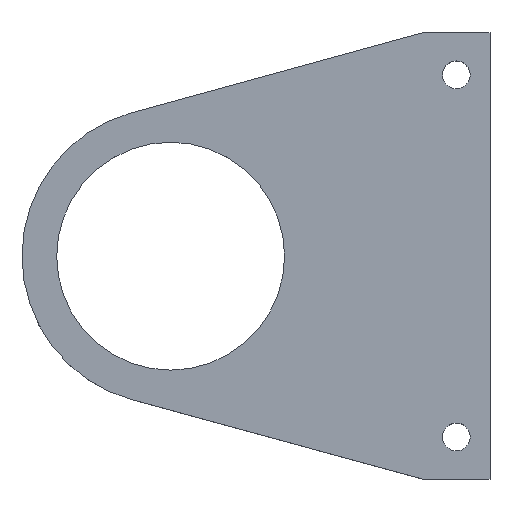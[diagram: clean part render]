
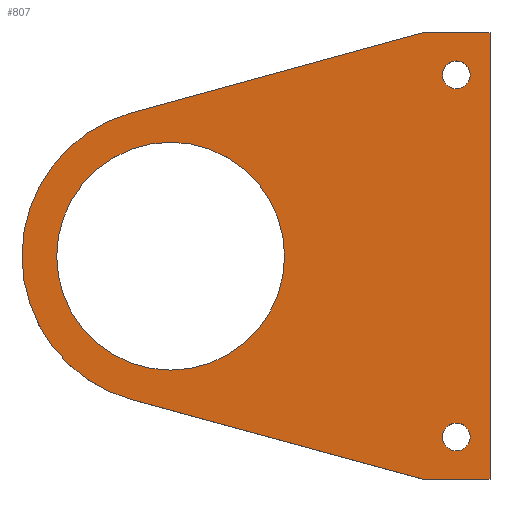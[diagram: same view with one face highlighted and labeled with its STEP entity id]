
A CAD part, top view. The second image highlights one B-rep face of the part: STEP entity #807.
In plain terms, the highlighted planar face has unit normal (0, 0, 1).
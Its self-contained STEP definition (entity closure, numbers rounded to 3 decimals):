
#12 = ORIENTED_EDGE ( 'NONE', *, *, #643, .F. ) ;
#21 = DIRECTION ( 'NONE',  ( 0., 0., 1. ) ) ;
#27 = DIRECTION ( 'NONE',  ( -0.964, -0.265, 0. ) ) ;
#43 = EDGE_LOOP ( 'NONE', ( #418, #346 ) ) ;
#64 = VERTEX_POINT ( 'NONE', #417 ) ;
#101 = ORIENTED_EDGE ( 'NONE', *, *, #570, .T. ) ;
#106 = ORIENTED_EDGE ( 'NONE', *, *, #392, .F. ) ;
#111 = AXIS2_PLACEMENT_3D ( 'NONE', #274, #549, #132 ) ;
#112 = VERTEX_POINT ( 'NONE', #705 ) ;
#132 = DIRECTION ( 'NONE',  ( 1., 0., 0. ) ) ;
#138 = ORIENTED_EDGE ( 'NONE', *, *, #913, .T. ) ;
#141 = AXIS2_PLACEMENT_3D ( 'NONE', #718, #742, #367 ) ;
#148 = CARTESIAN_POINT ( 'NONE',  ( -31.213, -1.384, 10.5 ) ) ;
#149 = EDGE_CURVE ( 'NONE', #917, #297, #338, .T. ) ;
#153 = CARTESIAN_POINT ( 'NONE',  ( 0., -5.634, 10.5 ) ) ;
#159 = EDGE_CURVE ( 'NONE', #329, #828, #926, .T. ) ;
#163 = DIRECTION ( 'NONE',  ( 0., 0., 1. ) ) ;
#169 = CARTESIAN_POINT ( 'NONE',  ( -60.049, 16.866, 10.5 ) ) ;
#173 = VERTEX_POINT ( 'NONE', #827 ) ;
#202 = AXIS2_PLACEMENT_3D ( 'NONE', #148, #376, #232 ) ;
#207 = FACE_BOUND ( 'NONE', #373, .T. ) ;
#223 = VERTEX_POINT ( 'NONE', #821 ) ;
#228 = CIRCLE ( 'NONE', #202, 1.4 ) ;
#232 = DIRECTION ( 'NONE',  ( 1., 0., 0. ) ) ;
#233 = ORIENTED_EDGE ( 'NONE', *, *, #499, .F. ) ;
#274 = CARTESIAN_POINT ( 'NONE',  ( -60.049, 16.866, 10.5 ) ) ;
#280 = CIRCLE ( 'NONE', #923, 1.4 ) ;
#295 = DIRECTION ( 'NONE',  ( 1., 0., 0. ) ) ;
#297 = VERTEX_POINT ( 'NONE', #600 ) ;
#301 = DIRECTION ( 'NONE',  ( 1., 0., 0. ) ) ;
#303 = DIRECTION ( 'NONE',  ( 1., 0., 0. ) ) ;
#306 = ORIENTED_EDGE ( 'NONE', *, *, #781, .T. ) ;
#310 = VERTEX_POINT ( 'NONE', #708 ) ;
#322 = CIRCLE ( 'NONE', #595, 15. ) ;
#329 = VERTEX_POINT ( 'NONE', #626 ) ;
#338 = CIRCLE ( 'NONE', #865, 11.5 ) ;
#346 = ORIENTED_EDGE ( 'NONE', *, *, #472, .T. ) ;
#350 = ORIENTED_EDGE ( 'NONE', *, *, #872, .T. ) ;
#351 = FACE_BOUND ( 'NONE', #750, .T. ) ;
#354 = CARTESIAN_POINT ( 'NONE',  ( -75.049, 16.866, 10.5 ) ) ;
#364 = DIRECTION ( 'NONE',  ( 0., -1., 0. ) ) ;
#367 = DIRECTION ( 'NONE',  ( 1., 0., 0. ) ) ;
#369 = CARTESIAN_POINT ( 'NONE',  ( -64.003, 2.397, 10.5 ) ) ;
#373 = EDGE_LOOP ( 'NONE', ( #106, #829 ) ) ;
#376 = DIRECTION ( 'NONE',  ( 0., 0., -1. ) ) ;
#386 = LINE ( 'NONE', #670, #630 ) ;
#392 = EDGE_CURVE ( 'NONE', #297, #917, #906, .T. ) ;
#415 = DIRECTION ( 'NONE',  ( 0., 0., 1. ) ) ;
#417 = CARTESIAN_POINT ( 'NONE',  ( -29.813, -1.384, 10.5 ) ) ;
#418 = ORIENTED_EDGE ( 'NONE', *, *, #509, .T. ) ;
#423 = VERTEX_POINT ( 'NONE', #585 ) ;
#428 = DIRECTION ( 'NONE',  ( 0., 0., 1. ) ) ;
#438 = VECTOR ( 'NONE', #528, 1000. ) ;
#472 = EDGE_CURVE ( 'NONE', #64, #310, #228, .T. ) ;
#484 = DIRECTION ( 'NONE',  ( 1., 0., 0. ) ) ;
#486 = CARTESIAN_POINT ( 'NONE',  ( -60.049, 16.866, 10.5 ) ) ;
#493 = AXIS2_PLACEMENT_3D ( 'NONE', #662, #522, #301 ) ;
#499 = EDGE_CURVE ( 'NONE', #173, #423, #280, .T. ) ;
#502 = ORIENTED_EDGE ( 'NONE', *, *, #824, .F. ) ;
#508 = CARTESIAN_POINT ( 'NONE',  ( -71.549, 16.866, 10.5 ) ) ;
#509 = EDGE_CURVE ( 'NONE', #310, #64, #629, .T. ) ;
#514 = CARTESIAN_POINT ( 'NONE',  ( -34.613, 39.416, 10.5 ) ) ;
#522 = DIRECTION ( 'NONE',  ( 0., 0., 1. ) ) ;
#528 = DIRECTION ( 'NONE',  ( -0.965, 0.264, 0. ) ) ;
#533 = LINE ( 'NONE', #905, #438 ) ;
#537 = CIRCLE ( 'NONE', #660, 15. ) ;
#549 = DIRECTION ( 'NONE',  ( 0., 0., 1. ) ) ;
#555 = CARTESIAN_POINT ( 'NONE',  ( 0., 0., 10.5 ) ) ;
#570 = EDGE_CURVE ( 'NONE', #921, #112, #386, .T. ) ;
#574 = CARTESIAN_POINT ( 'NONE',  ( 0., 39.416, 10.5 ) ) ;
#585 = CARTESIAN_POINT ( 'NONE',  ( -29.813, 35.166, 10.5 ) ) ;
#595 = AXIS2_PLACEMENT_3D ( 'NONE', #169, #21, #801 ) ;
#600 = CARTESIAN_POINT ( 'NONE',  ( -48.549, 16.866, 10.5 ) ) ;
#625 = FACE_BOUND ( 'NONE', #43, .T. ) ;
#626 = CARTESIAN_POINT ( 'NONE',  ( -27.813, 39.416, 10.5 ) ) ;
#627 = DIRECTION ( 'NONE',  ( 1., 0., 0. ) ) ;
#629 = CIRCLE ( 'NONE', #141, 1.4 ) ;
#630 = VECTOR ( 'NONE', #27, 1000. ) ;
#643 = EDGE_CURVE ( 'NONE', #223, #794, #533, .T. ) ;
#646 = CARTESIAN_POINT ( 'NONE',  ( -60.049, 16.866, 10.5 ) ) ;
#660 = AXIS2_PLACEMENT_3D ( 'NONE', #646, #415, #859 ) ;
#662 = CARTESIAN_POINT ( 'NONE',  ( -31.213, 35.166, 10.5 ) ) ;
#670 = CARTESIAN_POINT ( 'NONE',  ( -12.508, 45.494, 10.5 ) ) ;
#679 = VECTOR ( 'NONE', #797, 1000. ) ;
#703 = FACE_OUTER_BOUND ( 'NONE', #875, .T. ) ;
#705 = CARTESIAN_POINT ( 'NONE',  ( -64.026, 31.33, 10.5 ) ) ;
#707 = LINE ( 'NONE', #153, #814 ) ;
#708 = CARTESIAN_POINT ( 'NONE',  ( -32.613, -1.384, 10.5 ) ) ;
#718 = CARTESIAN_POINT ( 'NONE',  ( -31.213, -1.384, 10.5 ) ) ;
#719 = VERTEX_POINT ( 'NONE', #354 ) ;
#727 = CARTESIAN_POINT ( 'NONE',  ( -27.813, -5.634, 10.5 ) ) ;
#742 = DIRECTION ( 'NONE',  ( 0., 0., -1. ) ) ;
#750 = EDGE_LOOP ( 'NONE', ( #233, #502 ) ) ;
#781 = EDGE_CURVE ( 'NONE', #112, #719, #537, .T. ) ;
#794 = VERTEX_POINT ( 'NONE', #369 ) ;
#797 = DIRECTION ( 'NONE',  ( -1., 0., 0. ) ) ;
#801 = DIRECTION ( 'NONE',  ( 1., 0., 0. ) ) ;
#804 = LINE ( 'NONE', #574, #679 ) ;
#807 = ADVANCED_FACE ( 'NONE', ( #703, #351, #625, #207 ), #922, .T. ) ;
#814 = VECTOR ( 'NONE', #303, 1000. ) ;
#821 = CARTESIAN_POINT ( 'NONE',  ( -34.613, -5.634, 10.5 ) ) ;
#822 = EDGE_CURVE ( 'NONE', #223, #828, #707, .T. ) ;
#824 = EDGE_CURVE ( 'NONE', #423, #173, #927, .T. ) ;
#827 = CARTESIAN_POINT ( 'NONE',  ( -32.613, 35.166, 10.5 ) ) ;
#828 = VERTEX_POINT ( 'NONE', #727 ) ;
#829 = ORIENTED_EDGE ( 'NONE', *, *, #149, .F. ) ;
#846 = CARTESIAN_POINT ( 'NONE',  ( -27.813, 0., 10.5 ) ) ;
#853 = ORIENTED_EDGE ( 'NONE', *, *, #159, .F. ) ;
#854 = DIRECTION ( 'NONE',  ( 0., 0., 1. ) ) ;
#859 = DIRECTION ( 'NONE',  ( 1., 0., 0. ) ) ;
#865 = AXIS2_PLACEMENT_3D ( 'NONE', #486, #428, #627 ) ;
#872 = EDGE_CURVE ( 'NONE', #719, #794, #322, .T. ) ;
#875 = EDGE_LOOP ( 'NONE', ( #12, #885, #853, #138, #101, #306, #350 ) ) ;
#885 = ORIENTED_EDGE ( 'NONE', *, *, #822, .T. ) ;
#886 = CARTESIAN_POINT ( 'NONE',  ( -31.213, 35.166, 10.5 ) ) ;
#892 = VECTOR ( 'NONE', #364, 1000. ) ;
#905 = CARTESIAN_POINT ( 'NONE',  ( -3.837, -14.043, 10.5 ) ) ;
#906 = CIRCLE ( 'NONE', #111, 11.5 ) ;
#907 = AXIS2_PLACEMENT_3D ( 'NONE', #555, #854, #484 ) ;
#913 = EDGE_CURVE ( 'NONE', #329, #921, #804, .T. ) ;
#917 = VERTEX_POINT ( 'NONE', #508 ) ;
#921 = VERTEX_POINT ( 'NONE', #514 ) ;
#922 = PLANE ( 'NONE',  #907 ) ;
#923 = AXIS2_PLACEMENT_3D ( 'NONE', #886, #163, #295 ) ;
#926 = LINE ( 'NONE', #846, #892 ) ;
#927 = CIRCLE ( 'NONE', #493, 1.4 ) ;
